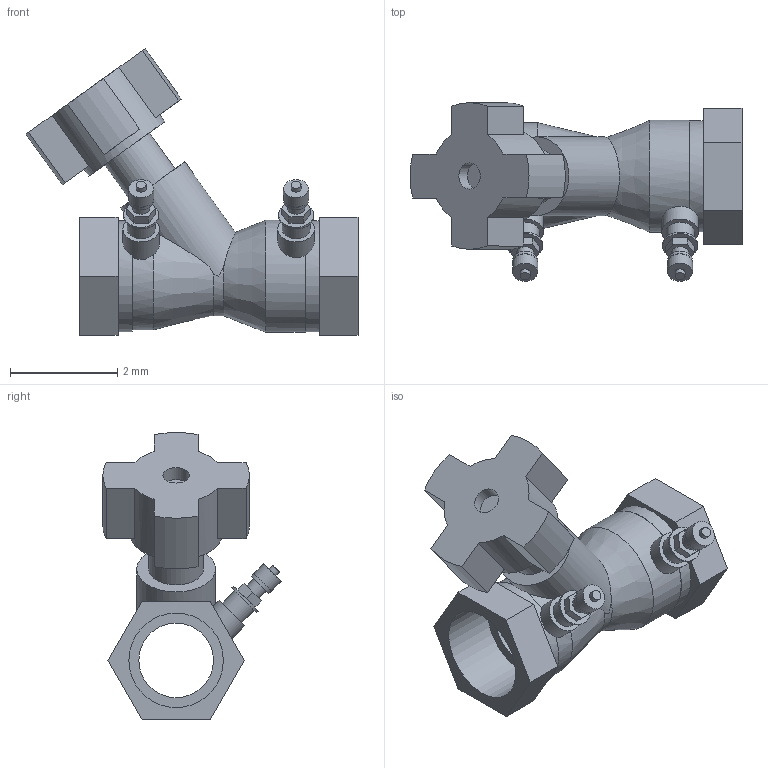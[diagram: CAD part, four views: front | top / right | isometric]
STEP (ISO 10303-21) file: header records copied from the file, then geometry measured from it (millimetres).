
FILE_DESCRIPTION(('Open CASCADE Model'),'2;1');
FILE_NAME('Open CASCADE Shape Model','2021-11-03T10:33:19',('Author'),( 'Open CASCADE'),'Open CASCADE STEP processor 7.3','Open CASCADE 7.3' ,'Unknown');
FILE_SCHEMA(('AUTOMOTIVE_DESIGN { 1 0 10303 214 1 1 1 1 }'));
Length unit declared in the file: millimetre
Products named in the file (1): Open CASCADE STEP translator 7.3 1
Bounding box: 6.19 x 3.33 x 5.35 mm (x, y, z)
Volume: 15.1 mm3; surface area: 104.9 mm2
Topology: 1 solids, 2 shells, 103 faces, 238 edges, 159 vertices
Faces by surface type: plane 66, cylinder 34, cone 3
Full cylindrical faces by diameter (mm): 0.185 x2, 0.32 x2, 0.465 x2, 0.47 x2, 0.49 x1, 0.522 x2, 0.658 x2, 0.68 x2, 1.022 x1, 1.391 x1, 1.47 x2, 1.74 x1, 1.762 x2, 2.072 x2, 2.09 x1
Entity records: 7741 total; most frequent: CARTESIAN_POINT 2949, DIRECTION 878, ORIENTED_EDGE 476, PCURVE 476, DEFINITIONAL_REPRESENTATION 476, LINE 465, VECTOR 465, EDGE_CURVE 238
